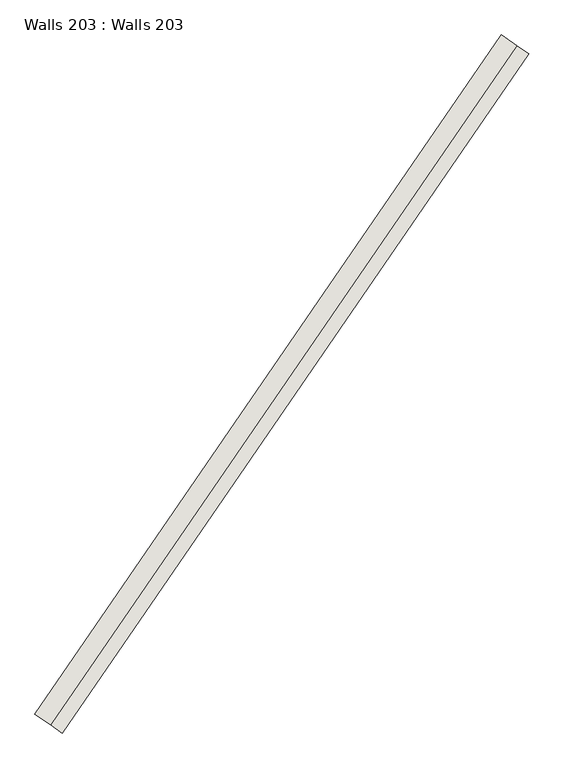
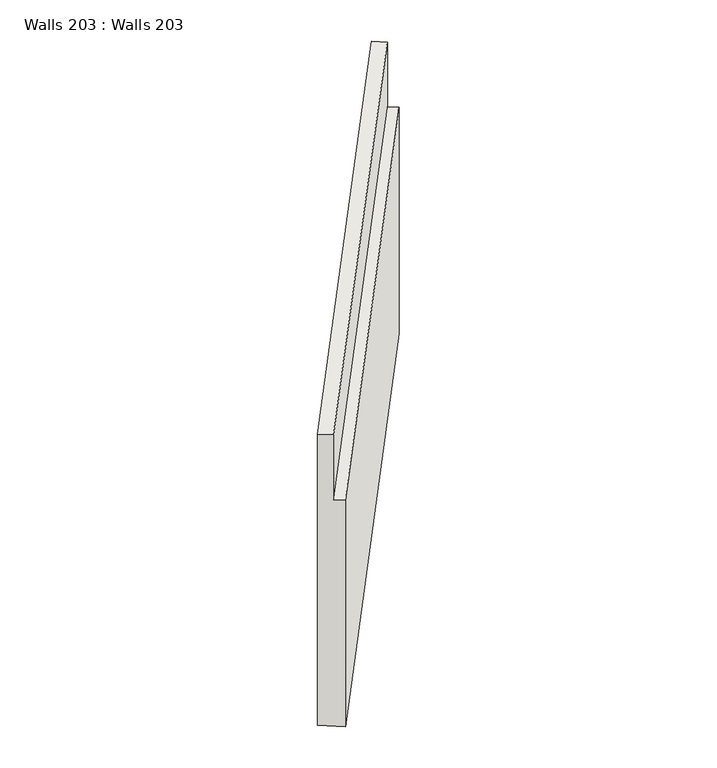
"""IFC4 building model written with IfcOpenShell, lengths in millimetres: wall geometry, Walls 203 : Walls 203."""

from ifc_helpers import new_model, si_unit, frame, origin, place, context, project, spatial, polyline, outline, extrude, source, transform, mapped, element, save


def walls_203_walls_203_4635fa76(model_context):
    return source(origin(), model_context, "Body", "SweptSolid", [
        extrude(outline(polyline([(659067.0, 0.0), (654567.0, 0.0), (654567.0, 350.0000001), (658067.0, 350.0000001), (658067.0, 200.0000001), (659067.0, 200.0000001), (659067.0, 0.0)])), frame((585316.065443, 504953.4019742, 0.0), z_axis=(0.5664229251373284, 0.8241147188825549, 0.0), x_axis=(0.0, 0.0, 1.0)), (0.0, 0.0, 1.0), 8699.9999996),
    ])


if __name__ == "__main__":
    model = new_model("IFC4")
    model_context = context("Model", 3, world=origin())
    ifc_project = project(units=[si_unit("LENGTHUNIT", "METRE", prefix="MILLI")], contexts=[model_context])
    site = spatial("IfcSite", under=ifc_project)
    building = spatial("IfcBuilding", under=site)
    placement = place(None, origin())
    walls_203_walls_203_shape = walls_203_walls_203_4635fa76(model_context)
    element("IfcWall", 1, ObjectType="Walls 203 : Walls 203", at=placement, inside=building, context=model_context, shape_type="MappedRepresentation", body=[
        mapped(walls_203_walls_203_shape, transform((0.0, 0.0, 0.0), x_axis=(1.0, 0.0, 0.0), y_axis=(0.0, 1.0, 0.0), z_axis=(0.0, 0.0, 1.0))),
    ])
    save(model, "model.ifc")
